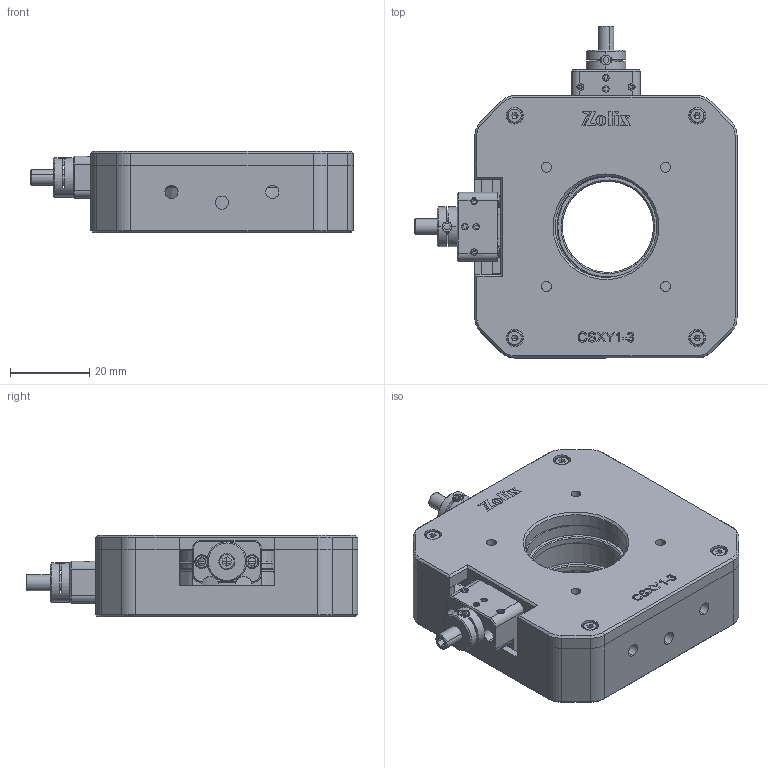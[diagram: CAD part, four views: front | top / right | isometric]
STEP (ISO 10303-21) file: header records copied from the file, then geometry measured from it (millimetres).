
FILE_DESCRIPTION (( 'STEP AP203' ), '1' );
FILE_NAME ('CSXY1-3.STEP', '2023-11-24T04:56:31', ( '' ), ( '' ), 'SwSTEP 2.0', 'SolidWorks 2021', '' );
FILE_SCHEMA (( 'CONFIG_CONTROL_DESIGN' ));
Length unit declared in the file: millimetre
Products named in the file (1): CSXY1-3
Bounding box: 81.09 x 83.57 x 20.63 mm (x, y, z)
Surface area: 30923.3 mm2 (no closed solid volume)
Topology: 0 solids, 61 shells, 605 faces, 2450 edges, 1829 vertices
Faces by surface type: plane 299, cylinder 164, cone 108, torus 24, bspline 8, sphere 2
Entity records: 39808 total; most frequent: CARTESIAN_POINT 19602, DIRECTION 4211, ORIENTED_EDGE 3642, EDGE_CURVE 2440, VERTEX_POINT 1829, VECTOR 1503, LINE 1503, AXIS2_PLACEMENT_3D 1354
